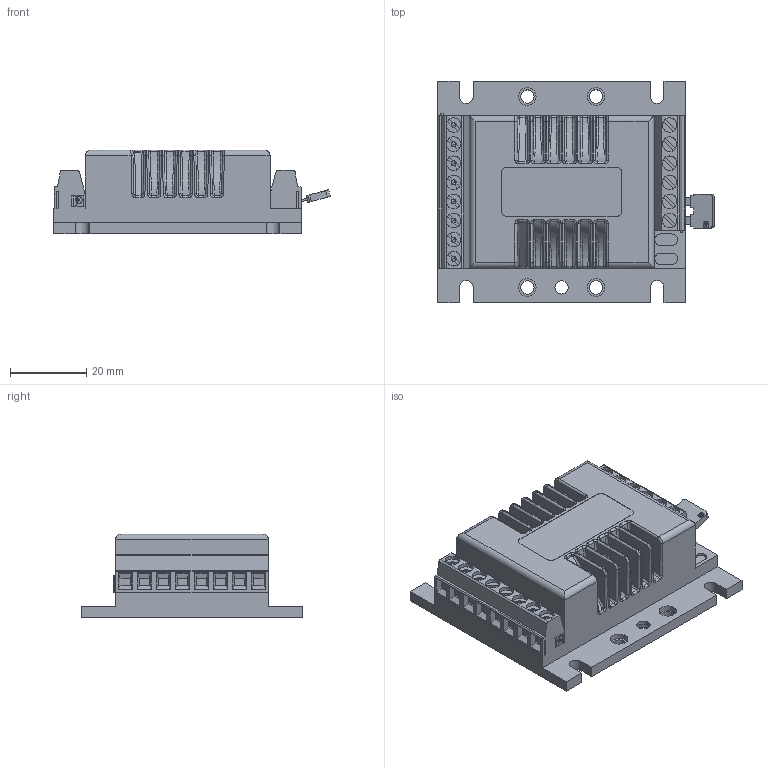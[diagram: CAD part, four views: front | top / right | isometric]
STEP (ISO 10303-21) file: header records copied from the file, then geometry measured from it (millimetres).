
FILE_DESCRIPTION(/* description */ (''),/* implementation_level */ '2;1');
FILE_NAME(/* name */ 'BC5004_2.stp',/* time_stamp */ '2012-09-28T15:31:55+02:00',/* author */ ('DR. FRITZ FAULHABER GmbH & Co. KG'),/* organization */ ('DR. FRITZ FAULHABER GmbH & Co. KG'),/* preprocessor_version */ 'ST-DEVELOPER v11',/* originating_system */ 'SIEMENS PLM Software NX 7.5',/* authorisation */ '');
FILE_SCHEMA (('AUTOMOTIVE_DESIGN { 1 0 10303 214 1 1 1 1 }'));
Length unit declared in the file: millimetre
Products named in the file (1): BC5004_2
Bounding box: 72.5 x 58 x 22 mm (x, y, z)
Volume: 50797.6 mm3; surface area: 17220.2 mm2
Topology: 2 solids, 20 shells, 1160 faces, 2810 edges, 1763 vertices
Faces by surface type: plane 663, cylinder 372, bspline 108, cone 9, torus 8
Full cylindrical faces by diameter (mm): 0.228 x1, 0.457 x1, 1.3 x6, 2.5 x4, 2.9 x4, 3.5 x5, 3.8 x6, 3.83 x6, 4.6 x4, 4.7 x4, 5.5 x4, 6.5 x1
Entity records: 36632 total; most frequent: CARTESIAN_POINT 9792, DIRECTION 5536, ORIENTED_EDGE 5438, EDGE_CURVE 2719, AXIS2_PLACEMENT_3D 1916, VERTEX_POINT 1739, LINE 1704, VECTOR 1704
